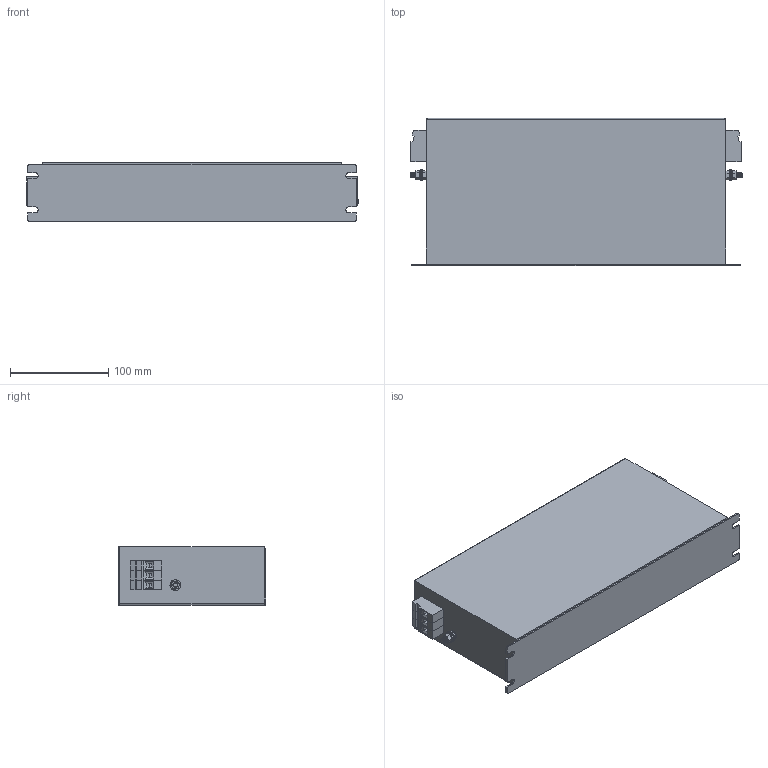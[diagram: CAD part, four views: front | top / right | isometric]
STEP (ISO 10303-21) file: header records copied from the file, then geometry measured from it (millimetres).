
FILE_DESCRIPTION (( 'STEP AP203' ), '1' );
FILE_NAME ('NF-R-30.STEP', '2021-03-11T17:53:19', ( '' ), ( '' ), 'SwSTEP 2.0', 'SolidWorks 2017', '' );
FILE_SCHEMA (( 'CONFIG_CONTROL_DESIGN' ));
Length unit declared in the file: millimetre
Products named in the file (8): VDFK6x3; NF-R-30; VDFK-6; flat washer narrow_am_B18.22M - Plain washer, 5 mm, narrow; hex nut style 1_am_B18.2.4.1M - Hex nut, Style 1,  M5 x 0.8 --D-N; hex screw_am_B18.6.7M - M5 x 0.8 x 13 Indented HHMS --13S; M5x20 Earth post
Assembly tree (12 placements, depth 3):
  NF-R-30
    NF-R-30
    M5x20 Earth post  x2
      flat washer narrow_am_B18.22M - Plain washer, 5 mm, narrow
      hex nut style 1_am_B18.2.4.1M - Hex nut, Style 1,  M5 x 0.8 --D-N
      hex screw_am_B18.6.7M - M5 x 0.8 x 13 Indented HHMS --13S
    VDFK6x3  x2
      VDFK-6
Bounding box: 338.6 x 150 x 60 mm (x, y, z)
Volume: 2722060.8 mm3; surface area: 229853 mm2
Topology: 16 solids, 16 shells, 694 faces, 1712 edges, 1076 vertices
Faces by surface type: plane 344, cone 176, cylinder 172, sphere 2
Entity records: 8723 total; most frequent: CARTESIAN_POINT 1467, DIRECTION 1419, ORIENTED_EDGE 1270, EDGE_CURVE 635, AXIS2_PLACEMENT_3D 550, VERTEX_POINT 398, LINE 319, VECTOR 319
